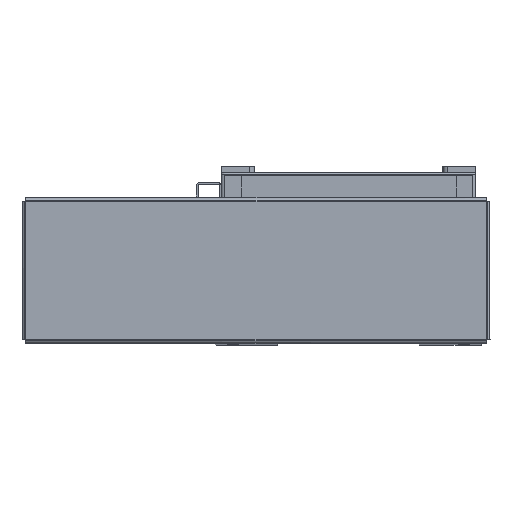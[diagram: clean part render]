
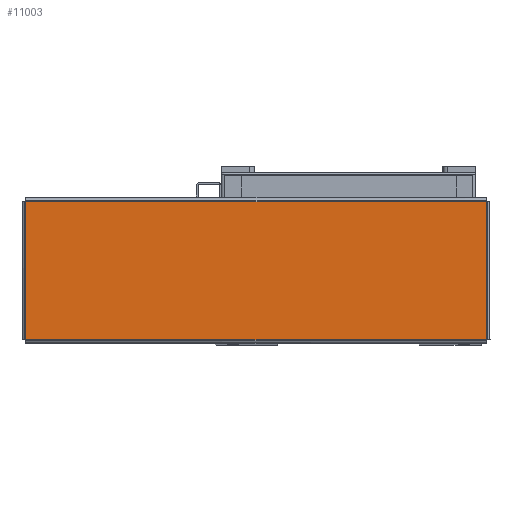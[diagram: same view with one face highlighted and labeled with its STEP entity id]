
A CAD part, top view. The second image highlights one B-rep face of the part: STEP entity #11003.
In plain terms, the highlighted planar face has unit normal (0, 0, 1) as drawn and (0, -1, 0) by its records, which use the part's own axes.
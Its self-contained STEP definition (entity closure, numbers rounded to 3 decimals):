
#11003 = ADVANCED_FACE ( 'NONE', ( #40117 ), #42822, .F. ) ;
#21506 = VERTEX_POINT ( 'NONE', #33964 ) ;
#21586 = VERTEX_POINT ( 'NONE', #33926 ) ;
#21610 = VERTEX_POINT ( 'NONE', #33950 ) ;
#21638 = VERTEX_POINT ( 'NONE', #34003 ) ;
#23351 = EDGE_CURVE ( 'NONE', #21610, #21506, #36306, .T. ) ;
#23363 = EDGE_CURVE ( 'NONE', #21638, #21586, #36295, .T. ) ;
#23369 = EDGE_CURVE ( 'NONE', #21586, #21610, #36273, .T. ) ;
#23395 = EDGE_CURVE ( 'NONE', #21506, #21638, #36354, .T. ) ;
#29621 = AXIS2_PLACEMENT_3D ( 'NONE', #42898, #42866, #42858 ) ;
#33926 = CARTESIAN_POINT ( 'NONE',  ( 139.263, -1.5, 41.763 ) ) ;
#33950 = CARTESIAN_POINT ( 'NONE',  ( -139.263, -1.5, 41.763 ) ) ;
#33964 = CARTESIAN_POINT ( 'NONE',  ( -139.263, -1.5, -41.763 ) ) ;
#34003 = CARTESIAN_POINT ( 'NONE',  ( 139.263, -1.5, -41.763 ) ) ;
#36273 = LINE ( 'NONE', #37666, #36317 ) ;
#36276 = VECTOR ( 'NONE', #37677, 1000. ) ;
#36288 = VECTOR ( 'NONE', #37592, 1000. ) ;
#36295 = LINE ( 'NONE', #37676, #36276 ) ;
#36306 = LINE ( 'NONE', #37567, #36288 ) ;
#36317 = VECTOR ( 'NONE', #37643, 1000. ) ;
#36354 = LINE ( 'NONE', #37757, #36383 ) ;
#36383 = VECTOR ( 'NONE', #37750, 1000. ) ;
#37567 = CARTESIAN_POINT ( 'NONE',  ( -139.263, -1.5, 41.793 ) ) ;
#37592 = DIRECTION ( 'NONE',  ( 0., 0., -1. ) ) ;
#37643 = DIRECTION ( 'NONE',  ( -1., 0., 0. ) ) ;
#37666 = CARTESIAN_POINT ( 'NONE',  ( 139.293, -1.5, 41.763 ) ) ;
#37676 = CARTESIAN_POINT ( 'NONE',  ( 139.263, -1.5, -41.793 ) ) ;
#37677 = DIRECTION ( 'NONE',  ( 0., 0., 1. ) ) ;
#37750 = DIRECTION ( 'NONE',  ( 1., 0., 0. ) ) ;
#37757 = CARTESIAN_POINT ( 'NONE',  ( -139.293, -1.5, -41.763 ) ) ;
#40117 = FACE_OUTER_BOUND ( 'NONE', #46458, .T. ) ;
#42822 = PLANE ( 'NONE',  #29621 ) ;
#42858 = DIRECTION ( 'NONE',  ( 0., 0., 1. ) ) ;
#42866 = DIRECTION ( 'NONE',  ( 0., 1., 0. ) ) ;
#42898 = CARTESIAN_POINT ( 'NONE',  ( 0., -1.5, 0. ) ) ;
#46458 = EDGE_LOOP ( 'NONE', ( #48004, #47959, #48014, #47999 ) ) ;
#47959 = ORIENTED_EDGE ( 'NONE', *, *, #23369, .T. ) ;
#47999 = ORIENTED_EDGE ( 'NONE', *, *, #23395, .T. ) ;
#48004 = ORIENTED_EDGE ( 'NONE', *, *, #23363, .T. ) ;
#48014 = ORIENTED_EDGE ( 'NONE', *, *, #23351, .T. ) ;
